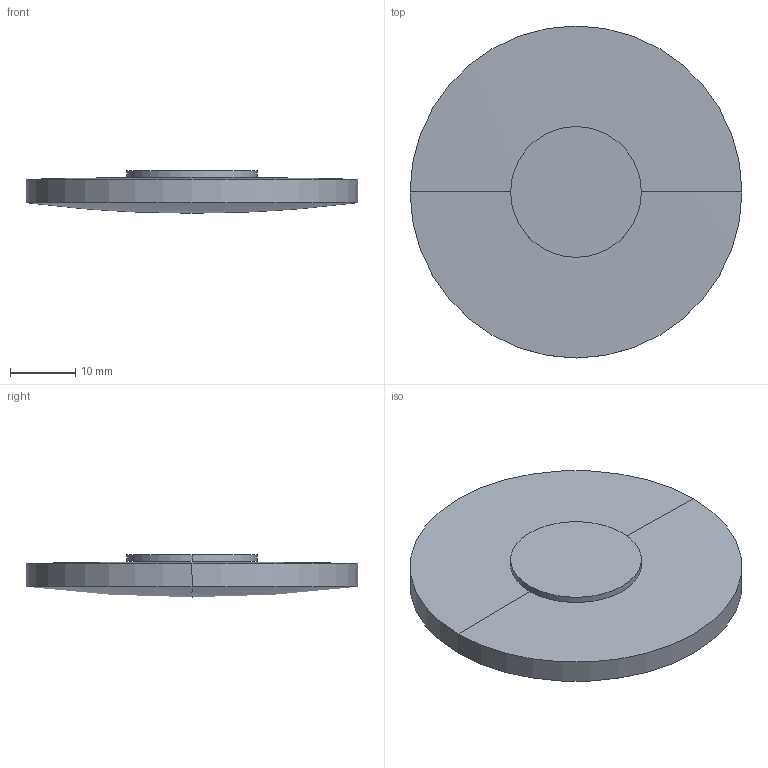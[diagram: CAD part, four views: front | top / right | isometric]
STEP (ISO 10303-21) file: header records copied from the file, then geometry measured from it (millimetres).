
FILE_DESCRIPTION(('STEP AP214'),'1');
FILE_NAME('LLQ-51380.STEP','2020-03-09T17:41:52',(' '),(' '),'Spatial InterOp 3D',' ',' ');
FILE_SCHEMA(('AUTOMOTIVE_DESIGN { 1 0 10303 214 1 1 1 1 }'));
Length unit declared in the file: millimetre
Products named in the file (1): 1
Bounding box: 50.8 x 50.8 x 6.5 mm (x, y, z)
Volume: 9530 mm3; surface area: 5326.4 mm2
Topology: 2 solids, 2 shells, 10 faces, 20 edges, 10 vertices
Faces by surface type: sphere 4, cylinder 4, plane 2
Entity records: 255 total; most frequent: DIRECTION 52, CARTESIAN_POINT 38, ORIENTED_EDGE 32, AXIS2_PLACEMENT_3D 24, EDGE_CURVE 16, CIRCLE 12, ADVANCED_FACE 10, FACE_OUTER_BOUND 10
